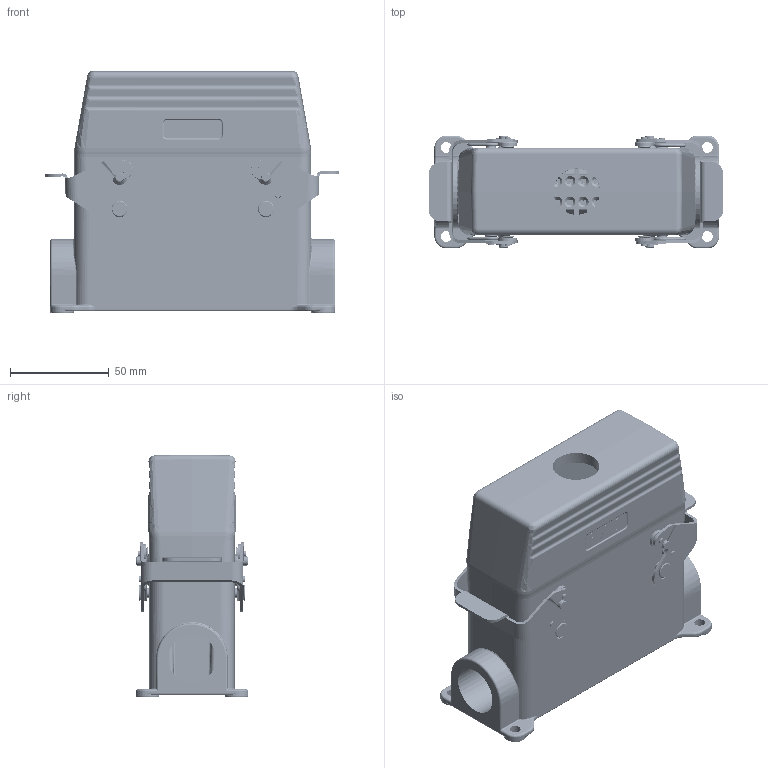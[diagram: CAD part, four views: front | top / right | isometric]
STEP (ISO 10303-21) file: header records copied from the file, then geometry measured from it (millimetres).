
FILE_DESCRIPTION (( 'STEP AP214' ), '1' );
FILE_NAME ('09124104225 HESH、24针、表面底座、顶出M25套件.STEP', '2024-04-30T06:45:15', ( 'L' ), ( '' ), 'SwSTEP 2.0', 'SolidWorks 2019', '' );
FILE_SCHEMA (( 'AUTOMOTIVE_DESIGN' ));
Length unit declared in the file: millimetre
Products named in the file (5): HESH-024-F.stp; 09124104225  HESH、24针、表面底座、顶出M25套件; HESH-024-M.stp; H24B-SGR-M25.step; H24B-TG-M25.step
Assembly tree (4 placements, depth 2):
  09124104225  HESH、24针、表面底座、顶出M25套件
    HESH-024-M.stp
    HESH-024-F.stp
    H24B-TG-M25.step
    H24B-SGR-M25.step
Bounding box: 148.95 x 57 x 122.6 mm (x, y, z)
Volume: 344839.9 mm3; surface area: 172721.8 mm2
Topology: 4 solids, 9 shells, 4582 faces, 11912 edges, 7546 vertices
Faces by surface type: plane 2150, cylinder 1188, cone 610, torus 294, bspline 258, sphere 82
Entity records: 174243 total; most frequent: CARTESIAN_POINT 50913, ORIENTED_EDGE 23576, DIRECTION 22303, EDGE_CURVE 11788, AXIS2_PLACEMENT_3D 7859, VERTEX_POINT 7546, VECTOR 6585, LINE 6585
